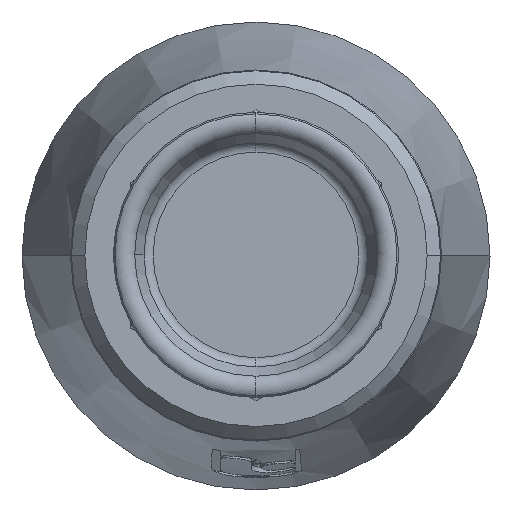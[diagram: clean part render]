
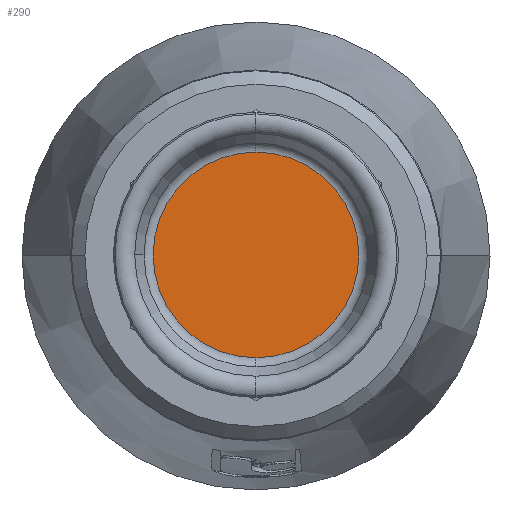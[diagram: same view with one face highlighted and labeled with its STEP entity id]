
A CAD part, top view. The second image highlights one B-rep face of the part: STEP entity #290.
In plain terms, the highlighted planar face has unit normal (0, 0, 1).
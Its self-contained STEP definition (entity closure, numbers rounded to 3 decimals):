
#290=ADVANCED_FACE('',(#635),#636,.T.);
#635=FACE_OUTER_BOUND('',#1074,.T.);
#636=PLANE('',#1075);
#1074=EDGE_LOOP('',(#1678,#1679,#1680));
#1075=AXIS2_PLACEMENT_3D('',#1681,#1682,#1683);
#1678=ORIENTED_EDGE('',*,*,#2652,.T.);
#1679=ORIENTED_EDGE('',*,*,#2663,.T.);
#1680=ORIENTED_EDGE('',*,*,#2653,.T.);
#1681=CARTESIAN_POINT('',(166.221,332.073,191.));
#1682=DIRECTION('',(0.,0.,1.0));
#1683=DIRECTION('',(-1.0,0.,0.));
#2652=EDGE_CURVE('',#3165,#3163,#3166,.T.);
#2653=EDGE_CURVE('',#3157,#3165,#3167,.T.);
#2663=EDGE_CURVE('',#3163,#3157,#3179,.T.);
#3157=VERTEX_POINT('',#3849);
#3163=VERTEX_POINT('',#3855);
#3165=VERTEX_POINT('',#3857);
#3166=CIRCLE('',#3858,30.646);
#3167=CIRCLE('',#3859,30.646);
#3179=CIRCLE('',#3873,30.646);
#3849=CARTESIAN_POINT('',(183.044,362.719,191.));
#3855=CARTESIAN_POINT('',(183.044,301.428,191.));
#3857=CARTESIAN_POINT('',(152.398,332.073,191.));
#3858=AXIS2_PLACEMENT_3D('',#5415,#5416,#5417);
#3859=AXIS2_PLACEMENT_3D('',#5418,#5419,#5420);
#3873=AXIS2_PLACEMENT_3D('',#5435,#5436,#5437);
#5415=CARTESIAN_POINT('',(183.044,332.073,191.));
#5416=DIRECTION('',(0.,0.,1.0));
#5417=DIRECTION('',(-1.0,0.,0.));
#5418=CARTESIAN_POINT('',(183.044,332.073,191.));
#5419=DIRECTION('',(0.,0.,1.0));
#5420=DIRECTION('',(-1.0,0.,0.));
#5435=CARTESIAN_POINT('',(183.044,332.073,191.));
#5436=DIRECTION('',(0.,0.,1.0));
#5437=DIRECTION('',(-1.0,0.,0.));
